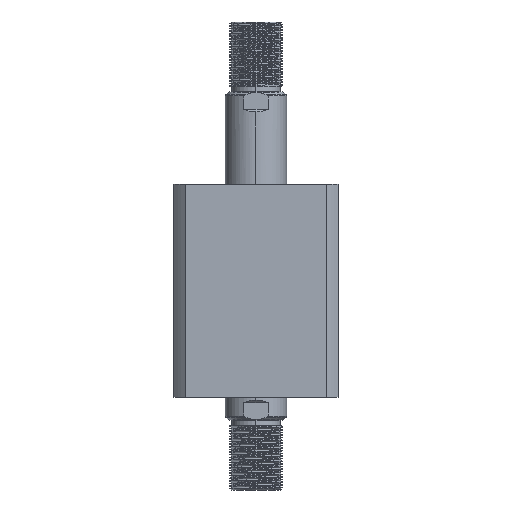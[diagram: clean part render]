
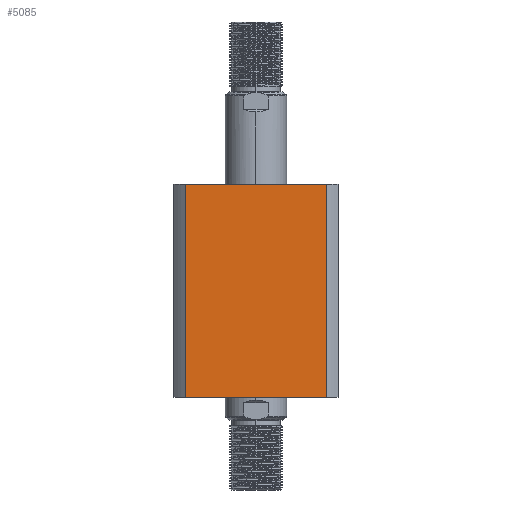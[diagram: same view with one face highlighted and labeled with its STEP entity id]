
A CAD part, left-side view. The second image highlights one B-rep face of the part: STEP entity #5085.
In plain terms, the highlighted planar face has unit normal (-1, 0, 0).
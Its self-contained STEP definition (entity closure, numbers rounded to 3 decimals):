
#72 = EDGE_CURVE ( 'NONE', #15980, #3277, #16606, .T. ) ;
#388 = CARTESIAN_POINT ( 'NONE',  ( -47., 40.435, 0. ) ) ;
#590 = CARTESIAN_POINT ( 'NONE',  ( -47., 47., 122. ) ) ;
#3199 = CARTESIAN_POINT ( 'NONE',  ( -47., 47., 0. ) ) ;
#3277 = VERTEX_POINT ( 'NONE', #24114 ) ;
#3391 = CARTESIAN_POINT ( 'NONE',  ( -47., -40.435, 300. ) ) ;
#4660 = AXIS2_PLACEMENT_3D ( 'NONE', #590, #24083, #11276 ) ;
#5085 = ADVANCED_FACE ( 'NONE', ( #12748 ), #21948, .F. ) ;
#5238 = DIRECTION ( 'NONE',  ( 0., 0., 1. ) ) ;
#5339 = DIRECTION ( 'NONE',  ( 0., -1., 0. ) ) ;
#5385 = LINE ( 'NONE', #3391, #13725 ) ;
#7080 = LINE ( 'NONE', #11565, #17796 ) ;
#9914 = EDGE_LOOP ( 'NONE', ( #25007, #20035, #19344, #18330 ) ) ;
#10849 = VERTEX_POINT ( 'NONE', #388 ) ;
#11276 = DIRECTION ( 'NONE',  ( 0., 1., 0. ) ) ;
#11565 = CARTESIAN_POINT ( 'NONE',  ( -47., 40.435, 300. ) ) ;
#11783 = LINE ( 'NONE', #3199, #18167 ) ;
#12428 = CARTESIAN_POINT ( 'NONE',  ( -47., 40.435, 122. ) ) ;
#12748 = FACE_OUTER_BOUND ( 'NONE', #9914, .T. ) ;
#13725 = VECTOR ( 'NONE', #18329, 1000. ) ;
#14213 = EDGE_CURVE ( 'NONE', #3277, #26746, #5385, .T. ) ;
#14942 = CARTESIAN_POINT ( 'NONE',  ( -47., -40.435, 0. ) ) ;
#15980 = VERTEX_POINT ( 'NONE', #12428 ) ;
#16606 = LINE ( 'NONE', #22966, #21605 ) ;
#17796 = VECTOR ( 'NONE', #5238, 1000. ) ;
#18167 = VECTOR ( 'NONE', #5339, 1000. ) ;
#18329 = DIRECTION ( 'NONE',  ( 0., 0., -1. ) ) ;
#18330 = ORIENTED_EDGE ( 'NONE', *, *, #24152, .T. ) ;
#19344 = ORIENTED_EDGE ( 'NONE', *, *, #25942, .F. ) ;
#20035 = ORIENTED_EDGE ( 'NONE', *, *, #72, .F. ) ;
#21605 = VECTOR ( 'NONE', #23433, 1000. ) ;
#21948 = PLANE ( 'NONE',  #4660 ) ;
#22966 = CARTESIAN_POINT ( 'NONE',  ( -47., 47., 122. ) ) ;
#23433 = DIRECTION ( 'NONE',  ( 0., -1., 0. ) ) ;
#24083 = DIRECTION ( 'NONE',  ( 1., 0., 0. ) ) ;
#24114 = CARTESIAN_POINT ( 'NONE',  ( -47., -40.435, 122. ) ) ;
#24152 = EDGE_CURVE ( 'NONE', #10849, #26746, #11783, .T. ) ;
#25007 = ORIENTED_EDGE ( 'NONE', *, *, #14213, .F. ) ;
#25942 = EDGE_CURVE ( 'NONE', #10849, #15980, #7080, .T. ) ;
#26746 = VERTEX_POINT ( 'NONE', #14942 ) ;
